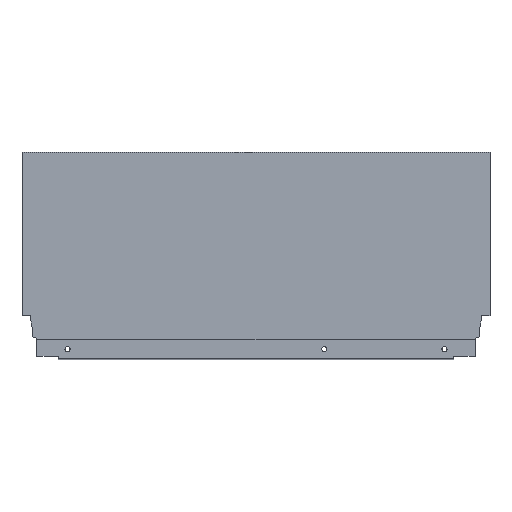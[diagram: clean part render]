
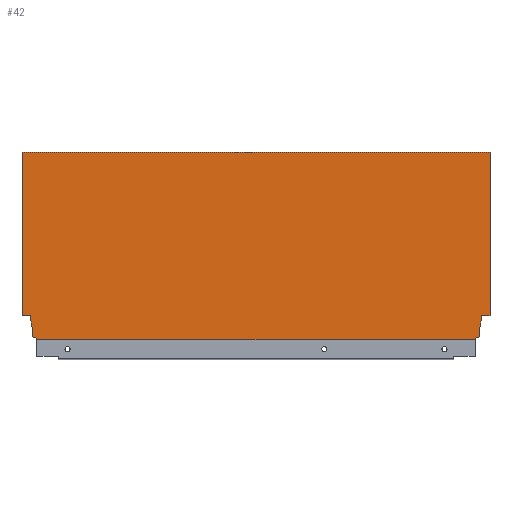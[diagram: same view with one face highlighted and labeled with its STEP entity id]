
A CAD part, top view. The second image highlights one B-rep face of the part: STEP entity #42.
In plain terms, the highlighted planar face has unit normal (0, 0, 1).
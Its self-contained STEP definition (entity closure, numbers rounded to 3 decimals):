
#42 = ADVANCED_FACE ( 'NONE', ( #974 ), #834, .T. ) ;
#135 = EDGE_CURVE ( 'NONE', #583, #610, #1448, .T. ) ;
#164 = EDGE_CURVE ( 'NONE', #583, #639, #1457, .T. ) ;
#167 = EDGE_CURVE ( 'NONE', #627, #638, #1506, .T. ) ;
#169 = EDGE_CURVE ( 'NONE', #598, #510, #1510, .T. ) ;
#171 = EDGE_CURVE ( 'NONE', #510, #616, #1514, .T. ) ;
#172 = EDGE_CURVE ( 'NONE', #638, #598, #1516, .T. ) ;
#173 = EDGE_CURVE ( 'NONE', #616, #797, #1518, .T. ) ;
#174 = EDGE_CURVE ( 'NONE', #797, #696, #1520, .T. ) ;
#175 = EDGE_CURVE ( 'NONE', #627, #599, #1522, .T. ) ;
#176 = EDGE_CURVE ( 'NONE', #696, #639, #1524, .T. ) ;
#177 = EDGE_CURVE ( 'NONE', #610, #580, #1526, .T. ) ;
#178 = EDGE_CURVE ( 'NONE', #580, #741, #1528, .T. ) ;
#179 = EDGE_CURVE ( 'NONE', #741, #612, #1530, .T. ) ;
#180 = EDGE_CURVE ( 'NONE', #612, #599, #1532, .T. ) ;
#223 = AXIS2_PLACEMENT_3D ( 'NONE', #885, #624, #626 ) ;
#283 = CARTESIAN_POINT ( 'NONE',  ( -13.004, 1.146, 7.5 ) ) ;
#297 = CARTESIAN_POINT ( 'NONE',  ( -7.06, 21.2, 7.5 ) ) ;
#303 = CARTESIAN_POINT ( 'NONE',  ( -402.1, 2.64, 7.5 ) ) ;
#306 = CARTESIAN_POINT ( 'NONE',  ( -397.996, 0., 7.5 ) ) ;
#314 = DIRECTION ( 'NONE',  ( -0.174, -0.985, 0. ) ) ;
#315 = CARTESIAN_POINT ( 'NONE',  ( 0., 0., 7.5 ) ) ;
#316 = CARTESIAN_POINT ( 'NONE',  ( -8.9, 10.765, 7.5 ) ) ;
#317 = CARTESIAN_POINT ( 'NONE',  ( -8.9, 2.64, 7.5 ) ) ;
#318 = CARTESIAN_POINT ( 'NONE',  ( -411., 0., 7.5 ) ) ;
#319 = CARTESIAN_POINT ( 'NONE',  ( -402.1, 2.64, 7.5 ) ) ;
#320 = CARTESIAN_POINT ( 'NONE',  ( -402.1, 10.765, 7.5 ) ) ;
#321 = CARTESIAN_POINT ( 'NONE',  ( -403.94, 21.2, 7.5 ) ) ;
#322 = CARTESIAN_POINT ( 'NONE',  ( -416., 21.2, 7.5 ) ) ;
#334 = CARTESIAN_POINT ( 'NONE',  ( -411., 164.7, 7.5 ) ) ;
#345 = DIRECTION ( 'NONE',  ( -1., 0., 0. ) ) ;
#346 = CARTESIAN_POINT ( 'NONE',  ( 0., 21.2, 7.5 ) ) ;
#347 = CARTESIAN_POINT ( 'NONE',  ( -7.06, 21.2, 7.5 ) ) ;
#350 = DIRECTION ( 'NONE',  ( -1., 0., 0. ) ) ;
#358 = CARTESIAN_POINT ( 'NONE',  ( -411., 164.7, 7.5 ) ) ;
#365 = CARTESIAN_POINT ( 'NONE',  ( 0., 164.7, 7.5 ) ) ;
#366 = CARTESIAN_POINT ( 'NONE',  ( -13.004, 0., 7.5 ) ) ;
#367 = CARTESIAN_POINT ( 'NONE',  ( 0., 21.2, 7.5 ) ) ;
#371 = CARTESIAN_POINT ( 'NONE',  ( -13.004, 1.146, 7.5 ) ) ;
#379 = CARTESIAN_POINT ( 'NONE',  ( -397.996, 1.146, 7.5 ) ) ;
#382 = CARTESIAN_POINT ( 'NONE',  ( -411., 21.2, 7.5 ) ) ;
#383 = CARTESIAN_POINT ( 'NONE',  ( -403.94, 21.2, 7.5 ) ) ;
#389 = CARTESIAN_POINT ( 'NONE',  ( -8.9, 10.765, 7.5 ) ) ;
#396 = CARTESIAN_POINT ( 'NONE',  ( -402.1, 10.765, 7.5 ) ) ;
#401 = CARTESIAN_POINT ( 'NONE',  ( -8.9, 2.64, 7.5 ) ) ;
#403 = DIRECTION ( 'NONE',  ( 1., 0., 0. ) ) ;
#404 = DIRECTION ( 'NONE',  ( -0.174, 0.985, 0. ) ) ;
#405 = DIRECTION ( 'NONE',  ( -0.94, 0.342, 0. ) ) ;
#406 = DIRECTION ( 'NONE',  ( 0., 1., 0. ) ) ;
#407 = DIRECTION ( 'NONE',  ( 0., -1., 0. ) ) ;
#411 = CARTESIAN_POINT ( 'NONE',  ( -411., 0., 7.5 ) ) ;
#414 = DIRECTION ( 'NONE',  ( 1., 0., 0. ) ) ;
#432 = DIRECTION ( 'NONE',  ( 0., -1., 0. ) ) ;
#433 = DIRECTION ( 'NONE',  ( 0., -1., 0. ) ) ;
#434 = DIRECTION ( 'NONE',  ( 0., -1., 0. ) ) ;
#435 = DIRECTION ( 'NONE',  ( -0.94, -0.342, 0. ) ) ;
#510 = VERTEX_POINT ( 'NONE', #297 ) ;
#580 = VERTEX_POINT ( 'NONE', #303 ) ;
#583 = VERTEX_POINT ( 'NONE', #306 ) ;
#598 = VERTEX_POINT ( 'NONE', #367 ) ;
#599 = VERTEX_POINT ( 'NONE', #382 ) ;
#610 = VERTEX_POINT ( 'NONE', #379 ) ;
#612 = VERTEX_POINT ( 'NONE', #383 ) ;
#616 = VERTEX_POINT ( 'NONE', #389 ) ;
#624 = DIRECTION ( 'NONE',  ( 0., 0., 1. ) ) ;
#626 = DIRECTION ( 'NONE',  ( 1., 0., 0. ) ) ;
#627 = VERTEX_POINT ( 'NONE', #358 ) ;
#638 = VERTEX_POINT ( 'NONE', #365 ) ;
#639 = VERTEX_POINT ( 'NONE', #366 ) ;
#696 = VERTEX_POINT ( 'NONE', #371 ) ;
#741 = VERTEX_POINT ( 'NONE', #396 ) ;
#758 = CARTESIAN_POINT ( 'NONE',  ( -397.996, 1.146, 7.5 ) ) ;
#762 = DIRECTION ( 'NONE',  ( 0., 1., 0. ) ) ;
#797 = VERTEX_POINT ( 'NONE', #401 ) ;
#834 = PLANE ( 'NONE',  #223 ) ;
#885 = CARTESIAN_POINT ( 'NONE',  ( -411., 0., 7.5 ) ) ;
#974 = FACE_OUTER_BOUND ( 'NONE', #1031, .T. ) ;
#1031 = EDGE_LOOP ( 'NONE', ( #1169, #1170, #1166, #1161, #1162, #1163, #1164, #1160, #1180, #1141, #1182, #1181, #1143, #1148 ) ) ;
#1141 = ORIENTED_EDGE ( 'NONE', *, *, #173, .F. ) ;
#1143 = ORIENTED_EDGE ( 'NONE', *, *, #172, .F. ) ;
#1148 = ORIENTED_EDGE ( 'NONE', *, *, #167, .F. ) ;
#1160 = ORIENTED_EDGE ( 'NONE', *, *, #176, .F. ) ;
#1161 = ORIENTED_EDGE ( 'NONE', *, *, #178, .F. ) ;
#1162 = ORIENTED_EDGE ( 'NONE', *, *, #177, .F. ) ;
#1163 = ORIENTED_EDGE ( 'NONE', *, *, #135, .F. ) ;
#1164 = ORIENTED_EDGE ( 'NONE', *, *, #164, .T. ) ;
#1166 = ORIENTED_EDGE ( 'NONE', *, *, #179, .F. ) ;
#1169 = ORIENTED_EDGE ( 'NONE', *, *, #175, .T. ) ;
#1170 = ORIENTED_EDGE ( 'NONE', *, *, #180, .F. ) ;
#1180 = ORIENTED_EDGE ( 'NONE', *, *, #174, .F. ) ;
#1181 = ORIENTED_EDGE ( 'NONE', *, *, #169, .F. ) ;
#1182 = ORIENTED_EDGE ( 'NONE', *, *, #171, .F. ) ;
#1448 = LINE ( 'NONE', #758, #1449 ) ;
#1449 = VECTOR ( 'NONE', #762, 1000. ) ;
#1457 = LINE ( 'NONE', #411, #1500 ) ;
#1500 = VECTOR ( 'NONE', #403, 1000. ) ;
#1506 = LINE ( 'NONE', #334, #1507 ) ;
#1507 = VECTOR ( 'NONE', #414, 1000. ) ;
#1510 = LINE ( 'NONE', #346, #1511 ) ;
#1511 = VECTOR ( 'NONE', #345, 1000. ) ;
#1514 = LINE ( 'NONE', #347, #1515 ) ;
#1515 = VECTOR ( 'NONE', #314, 1000. ) ;
#1516 = LINE ( 'NONE', #315, #1517 ) ;
#1517 = VECTOR ( 'NONE', #433, 1000. ) ;
#1518 = LINE ( 'NONE', #316, #1519 ) ;
#1519 = VECTOR ( 'NONE', #434, 1000. ) ;
#1520 = LINE ( 'NONE', #317, #1521 ) ;
#1521 = VECTOR ( 'NONE', #435, 1000. ) ;
#1522 = LINE ( 'NONE', #318, #1523 ) ;
#1523 = VECTOR ( 'NONE', #432, 1000. ) ;
#1524 = LINE ( 'NONE', #283, #1525 ) ;
#1525 = VECTOR ( 'NONE', #407, 1000. ) ;
#1526 = LINE ( 'NONE', #319, #1527 ) ;
#1527 = VECTOR ( 'NONE', #405, 1000. ) ;
#1528 = LINE ( 'NONE', #320, #1529 ) ;
#1529 = VECTOR ( 'NONE', #406, 1000. ) ;
#1530 = LINE ( 'NONE', #321, #1531 ) ;
#1531 = VECTOR ( 'NONE', #404, 1000. ) ;
#1532 = LINE ( 'NONE', #322, #1533 ) ;
#1533 = VECTOR ( 'NONE', #350, 1000. ) ;
